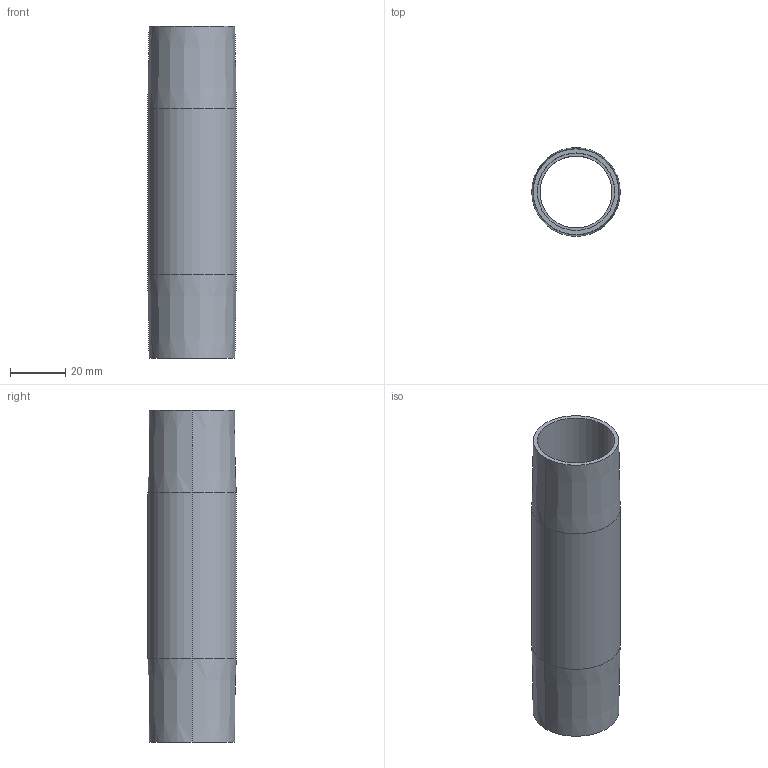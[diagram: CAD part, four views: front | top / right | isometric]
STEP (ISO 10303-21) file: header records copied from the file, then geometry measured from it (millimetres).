
FILE_DESCRIPTION (( 'STEP AP214' ), '1' );
FILE_NAME ('084.030.101.STEP', '2021-02-05T15:28:30', ( '' ), ( '' ), 'SwSTEP 2.0', 'SolidWorks 2018', '' );
FILE_SCHEMA (( 'AUTOMOTIVE_DESIGN' ));
Length unit declared in the file: millimetre
Products named in the file (1): 084.030.101
Bounding box: 32 x 32 x 120 mm (x, y, z)
Volume: 22220.5 mm3; surface area: 22904.6 mm2
Topology: 1 solids, 1 shells, 18 faces, 38 edges, 24 vertices
Faces by surface type: cylinder 10, cone 4, plane 4
Entity records: 588 total; most frequent: CARTESIAN_POINT 145, DIRECTION 92, ORIENTED_EDGE 76, AXIS2_PLACEMENT_3D 39, EDGE_CURVE 38, VERTEX_POINT 24, EDGE_LOOP 24, CIRCLE 20
